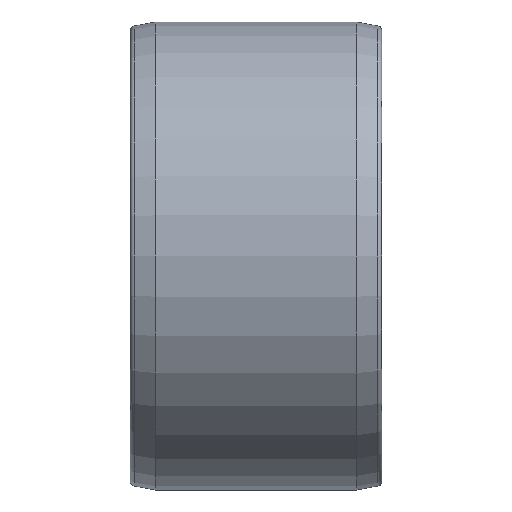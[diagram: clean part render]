
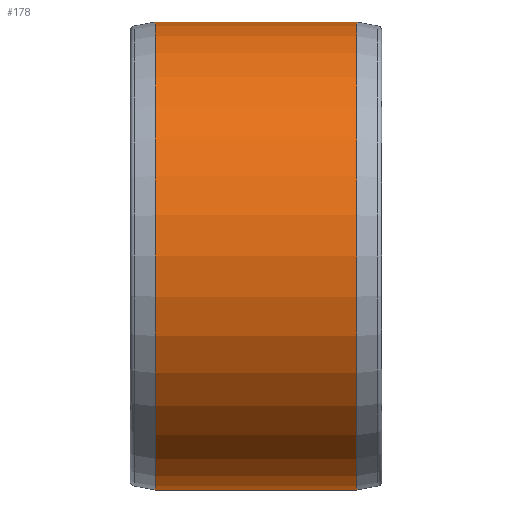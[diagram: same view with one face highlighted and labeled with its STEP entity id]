
A CAD part, front view. The second image highlights one B-rep face of the part: STEP entity #178.
In plain terms, the highlighted cylindrical face has radius 80 mm (diameter 160 mm), a full revolution.
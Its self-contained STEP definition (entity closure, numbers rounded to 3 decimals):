
#20=CYLINDRICAL_SURFACE('',#210,80.);
#38=FACE_BOUND('',#82,.T.);
#53=FACE_OUTER_BOUND('',#81,.T.);
#81=EDGE_LOOP('',(#156));
#82=EDGE_LOOP('',(#157));
#92=CIRCLE('',#196,80.);
#98=CIRCLE('',#207,80.);
#107=VERTEX_POINT('',#296);
#113=VERTEX_POINT('',#313);
#122=EDGE_CURVE('',#107,#107,#92,.T.);
#128=EDGE_CURVE('',#113,#113,#98,.T.);
#156=ORIENTED_EDGE('',*,*,#122,.F.);
#157=ORIENTED_EDGE('',*,*,#128,.F.);
#178=ADVANCED_FACE('',(#53,#38),#20,.T.);
#196=AXIS2_PLACEMENT_3D('',#297,#242,#243);
#207=AXIS2_PLACEMENT_3D('',#314,#264,#265);
#210=AXIS2_PLACEMENT_3D('',#318,#270,#271);
#242=DIRECTION('center_axis',(1.,0.,0.));
#243=DIRECTION('ref_axis',(0.,0.,-1.));
#264=DIRECTION('center_axis',(-1.,0.,0.));
#265=DIRECTION('ref_axis',(0.,-1.,0.));
#270=DIRECTION('center_axis',(1.,0.,0.));
#271=DIRECTION('ref_axis',(0.,1.,0.));
#296=CARTESIAN_POINT('',(-8.6,80.,0.));
#297=CARTESIAN_POINT('Origin',(-8.6,0.,0.));
#313=CARTESIAN_POINT('',(-77.4,80.,0.));
#314=CARTESIAN_POINT('Origin',(-77.4,0.,0.));
#318=CARTESIAN_POINT('Origin',(-47.3,0.,0.));
